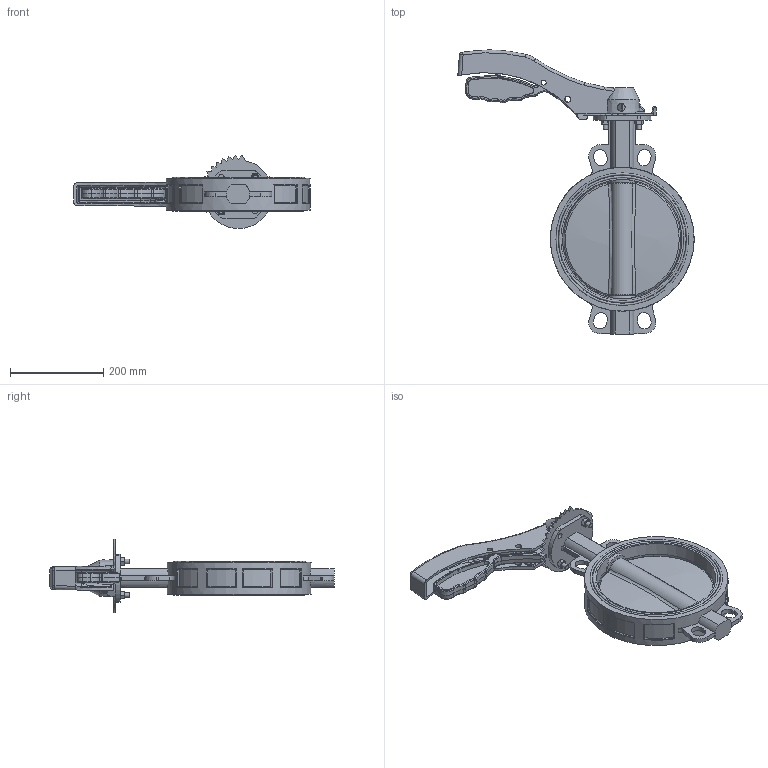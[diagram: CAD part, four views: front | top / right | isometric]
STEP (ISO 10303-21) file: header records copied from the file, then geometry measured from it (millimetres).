
FILE_DESCRIPTION (( 'STEP AP214' ), '1' );
FILE_NAME ('忒梟 勤標評概 Fig.3230-250.STEP', '2026-03-23T07:37:49', ( '' ), ( '' ), 'SwSTEP 2.0', 'SolidWorks 2024', '' );
FILE_SCHEMA (( 'AUTOMOTIVE_DESIGN' ));
Length unit declared in the file: millimetre
Products named in the file (1): 手柄 对夹蝶阀 Fig.3230-250
Bounding box: 506 x 608.32 x 156.49 mm (x, y, z)
Volume: 3626605.4 mm3; surface area: 559136.4 mm2
Topology: 1 solids, 4 shells, 1261 faces, 3539 edges, 2331 vertices
Faces by surface type: plane 809, cylinder 200, bspline 144, cone 76, torus 28, sphere 4
Full cylindrical faces by diameter (mm): 10 x4, 10.2 x1, 10.71 x3, 12 x4, 12.648 x2, 14.362 x2, 16.32 x1, 17.8 x2, 28.45 x2, 28.7 x2, 39.984 x1, 40.8 x1, 308 x1
Entity records: 66761 total; most frequent: CARTESIAN_POINT 22693, ORIENTED_EDGE 6914, DIRECTION 5269, EDGE_CURVE 3457, VERTEX_POINT 2298, VECTOR 2197, LINE 2197, AXIS2_PLACEMENT_3D 1536
